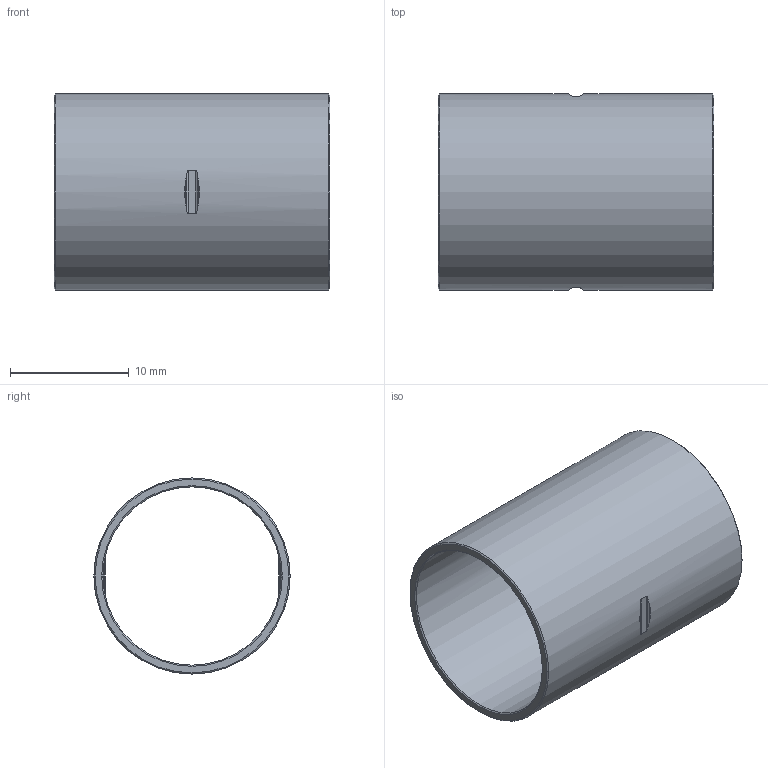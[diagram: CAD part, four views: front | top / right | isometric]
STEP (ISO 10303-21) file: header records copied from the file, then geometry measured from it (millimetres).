
FILE_DESCRIPTION((''),'2;1');
FILE_NAME('G:\SANHA-Ternat\Technik\Management\Bouwmaten + markeringen\z-maattekeningen 3D\5000_gem\5270_gem\1527015_gem.stp','2019-06-03T09:18:07',('vdvijverd'),(''),'Autodesk Inventor 2009','Autodesk Inventor 2009','');
FILE_SCHEMA(('AUTOMOTIVE_DESIGN { 1 0 10303 214 1 1 1 1 }'));
Length unit declared in the file: millimetre
Products named in the file (1): 1527015_gem
Bounding box: 23.2 x 16.5 x 16.5 mm (x, y, z)
Volume: 860.3 mm3; surface area: 2359.6 mm2
Topology: 1 solids, 1 shells, 36 faces, 96 edges, 64 vertices
Faces by surface type: bspline 14, cylinder 10, plane 8, cone 4
Full cylindrical faces by diameter (mm): 15 x1, 16.5 x1
Entity records: 1374 total; most frequent: CARTESIAN_POINT 563, ORIENTED_EDGE 176, DIRECTION 126, EDGE_CURVE 88, VERTEX_POINT 64, EDGE_LOOP 48, AXIS2_PLACEMENT_3D 47, FACE_OUTER_BOUND 36
